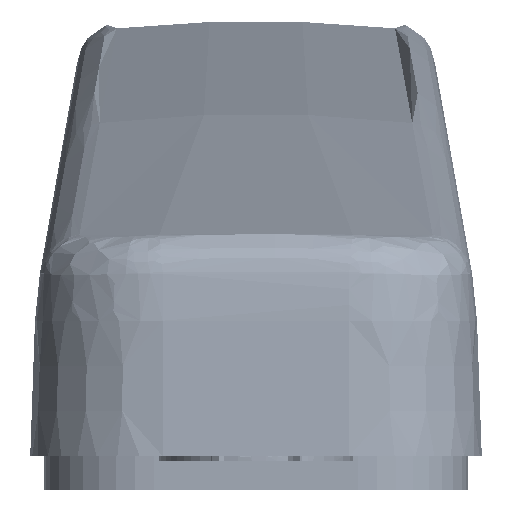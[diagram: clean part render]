
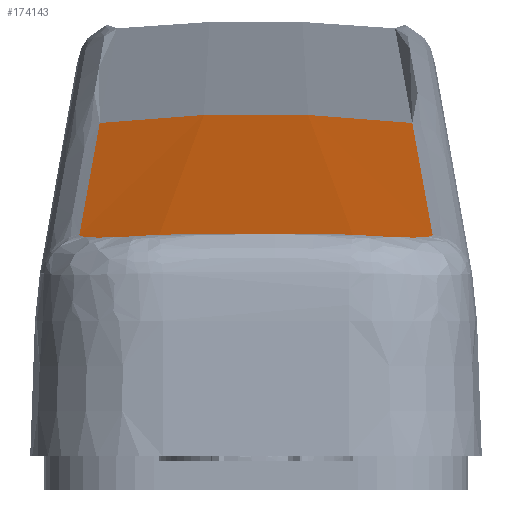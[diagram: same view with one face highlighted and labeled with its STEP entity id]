
A CAD part, left-side view. The second image highlights one B-rep face of the part: STEP entity #174143.
In plain terms, the highlighted cylindrical face has radius 80 mm (diameter 160 mm), a partial arc.
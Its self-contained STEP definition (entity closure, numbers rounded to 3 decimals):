
#174104=AXIS2_PLACEMENT_3D('Cylinder Axis2P3D',#174101,#174102,#174103) ;
#174108=AXIS2_PLACEMENT_3D('Circle Axis2P3D',#174106,#174107,$) ;
#172846=CARTESIAN_POINT('Vertex',(-316.148,7.094,-2.744)) ;
#172850=CARTESIAN_POINT('Control Point',(-312.944,10.268,-2.756)) ;
#172851=CARTESIAN_POINT('Control Point',(-313.316,10.172,-2.782)) ;
#172852=CARTESIAN_POINT('Control Point',(-313.683,10.032,-2.803)) ;
#172853=CARTESIAN_POINT('Control Point',(-314.039,9.85,-2.817)) ;
#172854=CARTESIAN_POINT('Control Point',(-314.83,9.32,-2.835)) ;
#172855=CARTESIAN_POINT('Control Point',(-315.469,8.593,-2.819)) ;
#172856=CARTESIAN_POINT('Control Point',(-315.769,8.122,-2.801)) ;
#172857=CARTESIAN_POINT('Control Point',(-315.996,7.617,-2.775)) ;
#172858=CARTESIAN_POINT('Control Point',(-316.148,7.094,-2.744)) ;
#172859=CARTESIAN_POINT('Vertex',(-312.944,10.268,-2.756)) ;
#172997=CARTESIAN_POINT('Vertex',(-312.944,-10.268,-2.756)) ;
#173001=CARTESIAN_POINT('Control Point',(-316.148,-7.094,-2.744)) ;
#173002=CARTESIAN_POINT('Control Point',(-316.108,-7.23,-2.752)) ;
#173003=CARTESIAN_POINT('Control Point',(-316.064,-7.365,-2.76)) ;
#173004=CARTESIAN_POINT('Control Point',(-316.014,-7.498,-2.767)) ;
#173005=CARTESIAN_POINT('Control Point',(-315.774,-8.076,-2.797)) ;
#173006=CARTESIAN_POINT('Control Point',(-315.439,-8.615,-2.819)) ;
#173007=CARTESIAN_POINT('Control Point',(-315.125,-8.996,-2.829)) ;
#173008=CARTESIAN_POINT('Control Point',(-314.523,-9.552,-2.831)) ;
#173009=CARTESIAN_POINT('Control Point',(-313.827,-9.953,-2.808)) ;
#173010=CARTESIAN_POINT('Control Point',(-313.538,-10.086,-2.795)) ;
#173011=CARTESIAN_POINT('Control Point',(-313.242,-10.191,-2.777)) ;
#173012=CARTESIAN_POINT('Control Point',(-312.944,-10.268,-2.756)) ;
#173013=CARTESIAN_POINT('Vertex',(-316.148,-7.094,-2.744)) ;
#173149=CARTESIAN_POINT('Vertex',(-250.628,-9.205,3.925)) ;
#173205=CARTESIAN_POINT('Control Point',(-311.78,-10.404,-2.651)) ;
#173206=CARTESIAN_POINT('Control Point',(-299.55,-10.164,-1.334)) ;
#173207=CARTESIAN_POINT('Control Point',(-287.32,-9.924,-0.018)) ;
#173208=CARTESIAN_POINT('Control Point',(-275.089,-9.684,1.297)) ;
#173209=CARTESIAN_POINT('Control Point',(-262.859,-9.445,2.611)) ;
#173210=CARTESIAN_POINT('Control Point',(-250.628,-9.205,3.925)) ;
#173211=CARTESIAN_POINT('Vertex',(-311.78,-10.404,-2.651)) ;
#173899=CARTESIAN_POINT('Vertex',(-311.78,10.404,-2.651)) ;
#173903=CARTESIAN_POINT('Control Point',(-250.628,9.205,3.925)) ;
#173904=CARTESIAN_POINT('Control Point',(-262.859,9.445,2.611)) ;
#173905=CARTESIAN_POINT('Control Point',(-275.089,9.684,1.297)) ;
#173906=CARTESIAN_POINT('Control Point',(-287.32,9.924,-0.018)) ;
#173907=CARTESIAN_POINT('Control Point',(-299.55,10.164,-1.334)) ;
#173908=CARTESIAN_POINT('Control Point',(-311.78,10.404,-2.651)) ;
#173909=CARTESIAN_POINT('Vertex',(-250.628,9.205,3.925)) ;
#174018=CARTESIAN_POINT('Control Point',(-311.78,10.404,-2.651)) ;
#174019=CARTESIAN_POINT('Control Point',(-311.824,10.405,-2.656)) ;
#174020=CARTESIAN_POINT('Control Point',(-311.868,10.406,-2.661)) ;
#174021=CARTESIAN_POINT('Control Point',(-311.912,10.405,-2.665)) ;
#174022=CARTESIAN_POINT('Control Point',(-312.147,10.401,-2.689)) ;
#174023=CARTESIAN_POINT('Control Point',(-312.381,10.38,-2.711)) ;
#174024=CARTESIAN_POINT('Control Point',(-312.571,10.353,-2.728)) ;
#174025=CARTESIAN_POINT('Control Point',(-312.758,10.316,-2.743)) ;
#174026=CARTESIAN_POINT('Control Point',(-312.944,10.268,-2.756)) ;
#174079=CARTESIAN_POINT('Vertex',(-316.338,5.692,-2.651)) ;
#174083=CARTESIAN_POINT('Control Point',(-316.148,7.094,-2.744)) ;
#174084=CARTESIAN_POINT('Control Point',(-316.17,7.018,-2.74)) ;
#174085=CARTESIAN_POINT('Control Point',(-316.19,6.941,-2.735)) ;
#174086=CARTESIAN_POINT('Control Point',(-316.209,6.864,-2.73)) ;
#174087=CARTESIAN_POINT('Control Point',(-316.271,6.587,-2.713)) ;
#174088=CARTESIAN_POINT('Control Point',(-316.313,6.305,-2.694)) ;
#174089=CARTESIAN_POINT('Control Point',(-316.332,6.101,-2.68)) ;
#174090=CARTESIAN_POINT('Control Point',(-316.34,5.896,-2.666)) ;
#174091=CARTESIAN_POINT('Control Point',(-316.338,5.692,-2.651)) ;
#174101=CARTESIAN_POINT('Axis2P3D Location',(-278.73,0.,-78.935)) ;
#174106=CARTESIAN_POINT('Axis2P3D Location',(-242.322,0.,-75.108)) ;
#174112=CARTESIAN_POINT('Control Point',(-316.338,5.692,-2.651)) ;
#174113=CARTESIAN_POINT('Control Point',(-316.291,1.904,-2.375)) ;
#174114=CARTESIAN_POINT('Control Point',(-316.291,-1.904,-2.375)) ;
#174115=CARTESIAN_POINT('Control Point',(-316.338,-5.692,-2.651)) ;
#174116=CARTESIAN_POINT('Vertex',(-316.338,-5.692,-2.651)) ;
#174120=CARTESIAN_POINT('Control Point',(-316.338,-5.692,-2.651)) ;
#174121=CARTESIAN_POINT('Control Point',(-316.343,-6.165,-2.686)) ;
#174122=CARTESIAN_POINT('Control Point',(-316.279,-6.639,-2.717)) ;
#174123=CARTESIAN_POINT('Control Point',(-316.148,-7.094,-2.744)) ;
#174126=CARTESIAN_POINT('Control Point',(-312.944,-10.268,-2.756)) ;
#174127=CARTESIAN_POINT('Control Point',(-312.563,-10.366,-2.729)) ;
#174128=CARTESIAN_POINT('Control Point',(-312.17,-10.412,-2.693)) ;
#174129=CARTESIAN_POINT('Control Point',(-311.78,-10.404,-2.651)) ;
#174102=DIRECTION('Axis2P3D Direction',(0.995,-0.,0.105)) ;
#174103=DIRECTION('Axis2P3D XDirection',(-0.103,0.188,0.977)) ;
#174107=DIRECTION('Axis2P3D Direction',(0.995,-0.,0.105)) ;
#174132=ORIENTED_EDGE('',*,*,#174110,.F.) ;
#174133=ORIENTED_EDGE('',*,*,#173911,.F.) ;
#174134=ORIENTED_EDGE('',*,*,#174027,.F.) ;
#174135=ORIENTED_EDGE('',*,*,#172861,.F.) ;
#174136=ORIENTED_EDGE('',*,*,#174092,.F.) ;
#174137=ORIENTED_EDGE('',*,*,#174118,.F.) ;
#174138=ORIENTED_EDGE('',*,*,#174124,.F.) ;
#174139=ORIENTED_EDGE('',*,*,#173015,.F.) ;
#174140=ORIENTED_EDGE('',*,*,#174130,.F.) ;
#174141=ORIENTED_EDGE('',*,*,#173213,.F.) ;
#174143=ADVANCED_FACE('10001301622_D10_001.1\\PartBody',(#174142),#174105,.T.) ;
#172849=B_SPLINE_CURVE_WITH_KNOTS('',5,(#172850,#172851,#172852,#172853,#172854,#172855,#172856,#172857,#172858),.UNSPECIFIED.,.F.,.U.,(6,3,6),(15.697,20.278,26.529),.UNSPECIFIED.) ;
#173000=B_SPLINE_CURVE_WITH_KNOTS('',5,(#173001,#173002,#173003,#173004,#173005,#173006,#173007,#173008,#173009,#173010,#173011,#173012),.UNSPECIFIED.,.F.,.U.,(6,3,3,6),(6.752,8.376,13.906,17.583),.UNSPECIFIED.) ;
#173204=B_SPLINE_CURVE_WITH_KNOTS('',5,(#173205,#173206,#173207,#173208,#173209,#173210),.UNSPECIFIED.,.F.,.U.,(6,6),(39.974,126.97),.UNSPECIFIED.) ;
#173902=B_SPLINE_CURVE_WITH_KNOTS('',5,(#173903,#173904,#173905,#173906,#173907,#173908),.UNSPECIFIED.,.F.,.U.,(6,6),(144.123,231.119),.UNSPECIFIED.) ;
#174017=B_SPLINE_CURVE_WITH_KNOTS('',5,(#174018,#174019,#174020,#174021,#174022,#174023,#174024,#174025,#174026),.UNSPECIFIED.,.F.,.U.,(6,3,6),(17.196,17.551,19.077),.UNSPECIFIED.) ;
#174082=B_SPLINE_CURVE_WITH_KNOTS('',5,(#174083,#174084,#174085,#174086,#174087,#174088,#174089,#174090,#174091),.UNSPECIFIED.,.F.,.U.,(6,3,6),(26.515,27.138,28.74),.UNSPECIFIED.) ;
#174111=B_SPLINE_CURVE_WITH_KNOTS('',3,(#174112,#174113,#174114,#174115),.UNSPECIFIED.,.F.,.U.,(4,4),(16.659,32.504),.UNSPECIFIED.) ;
#174119=B_SPLINE_CURVE_WITH_KNOTS('',3,(#174120,#174121,#174122,#174123),.UNSPECIFIED.,.F.,.U.,(4,4),(17.168,19.392),.UNSPECIFIED.) ;
#174125=B_SPLINE_CURVE_WITH_KNOTS('',3,(#174126,#174127,#174128,#174129),.UNSPECIFIED.,.F.,.U.,(4,4),(26.83,28.711),.UNSPECIFIED.) ;
#174109=CIRCLE('generated circle',#174108,80.) ;
#174105=CYLINDRICAL_SURFACE('generated cylinder',#174104,80.) ;
#172861=EDGE_CURVE('',#172847,#172860,#172849,.F.) ;
#173015=EDGE_CURVE('',#172998,#173014,#173000,.F.) ;
#173213=EDGE_CURVE('',#173150,#173212,#173204,.F.) ;
#173911=EDGE_CURVE('',#173900,#173910,#173902,.F.) ;
#174027=EDGE_CURVE('',#172860,#173900,#174017,.F.) ;
#174092=EDGE_CURVE('',#174080,#172847,#174082,.F.) ;
#174110=EDGE_CURVE('',#173910,#173150,#174109,.T.) ;
#174118=EDGE_CURVE('',#174117,#174080,#174111,.F.) ;
#174124=EDGE_CURVE('',#173014,#174117,#174119,.F.) ;
#174130=EDGE_CURVE('',#173212,#172998,#174125,.F.) ;
#174131=EDGE_LOOP('',(#174132,#174133,#174134,#174135,#174136,#174137,#174138,#174139,#174140,#174141)) ;
#174142=FACE_OUTER_BOUND('',#174131,.T.) ;
#172847=VERTEX_POINT('',#172846) ;
#172860=VERTEX_POINT('',#172859) ;
#172998=VERTEX_POINT('',#172997) ;
#173014=VERTEX_POINT('',#173013) ;
#173150=VERTEX_POINT('',#173149) ;
#173212=VERTEX_POINT('',#173211) ;
#173900=VERTEX_POINT('',#173899) ;
#173910=VERTEX_POINT('',#173909) ;
#174080=VERTEX_POINT('',#174079) ;
#174117=VERTEX_POINT('',#174116) ;
